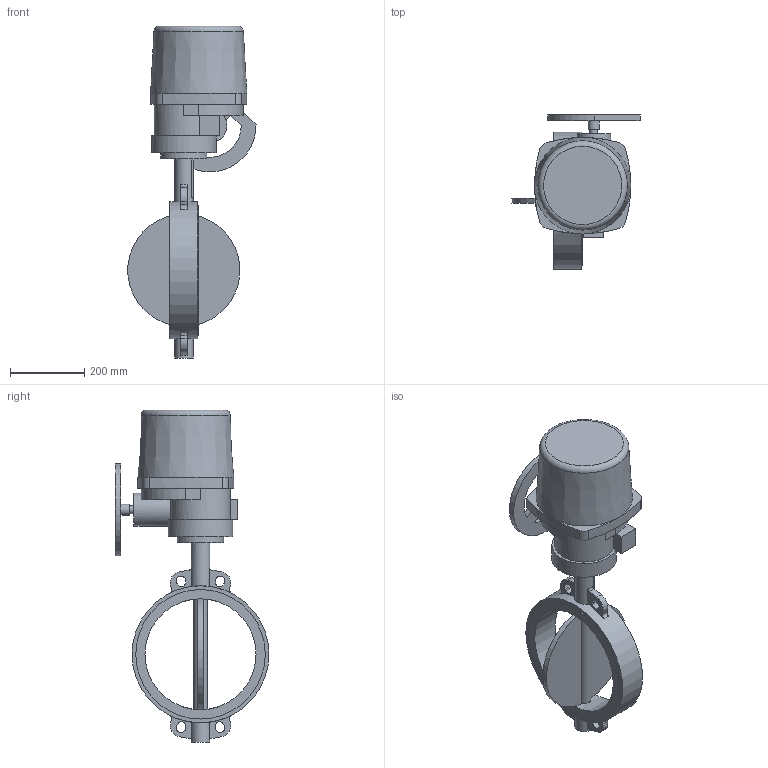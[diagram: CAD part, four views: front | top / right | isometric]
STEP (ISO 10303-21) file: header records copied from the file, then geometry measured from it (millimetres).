
FILE_DESCRIPTION(('STEP AP203'), '1');
FILE_NAME('青蜮铕 015WDN300+菹 QT80-1', '', ('UNSPECIFIED'), ('UNSPECIFIED'), 'ASCON STEP Converter 1.6', 'ASCON Math Kernel', '');
FILE_SCHEMA(('CONFIG_CONTROL_DESIGN'));
Length unit declared in the file: millimetre
Bounding box: 345.95 x 416 x 897 mm (x, y, z)
Volume: 15715433.9 mm3; surface area: 967648.3 mm2
Topology: 1 solids, 2 shells, 757 faces, 2204 edges, 1422 vertices
Faces by surface type: cylinder 528, plane 221, bspline 6, cone 1, torus 1
Full cylindrical faces by diameter (mm): 10 x4, 12 x4, 20.595 x1, 30 x1, 31.6 x1, 50 x2, 70 x1, 90 x1, 125 x1, 175 x1, 300 x1, 350 x2, 370 x1
Entity records: 33213 total; most frequent: CARTESIAN_POINT 6170, DIRECTION 4775, ORIENTED_EDGE 4301, EDGE_CURVE 2182, AXIS2_PLACEMENT_3D 1881, VERTEX_POINT 1422, CIRCLE 1129, LINE 1013
